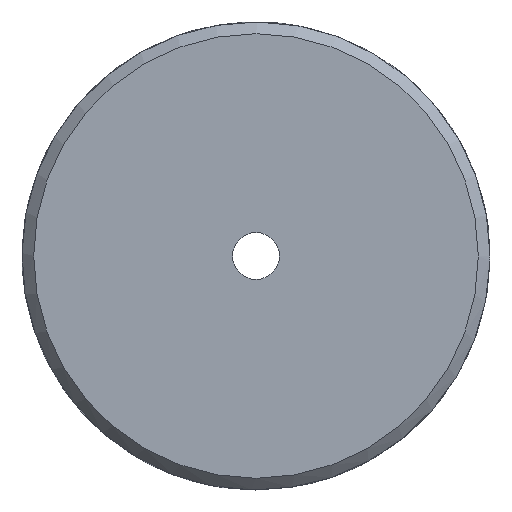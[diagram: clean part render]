
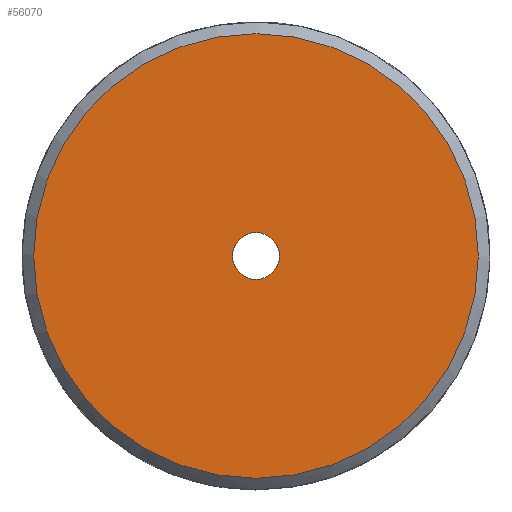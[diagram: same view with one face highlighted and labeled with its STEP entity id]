
A CAD part, left-side view. The second image highlights one B-rep face of the part: STEP entity #56070.
In plain terms, the highlighted planar face has unit normal (-1, 0, 0).
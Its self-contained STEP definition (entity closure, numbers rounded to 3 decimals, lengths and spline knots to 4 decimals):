
#16147=PLANE('',#55372);
#20806=ORIENTED_EDGE('',*,*,#22434,.F.);
#20807=ORIENTED_EDGE('',*,*,#24044,.F.);
#20809=CIRCLE('',#54337,9.5);
#21345=CIRCLE('',#55371,1.);
#21347=VERTEX_POINT('',#27198);
#22432=VERTEX_POINT('',#54330);
#22434=EDGE_CURVE('',#21347,#21347,#20809,.T.);
#24044=EDGE_CURVE('',#22432,#22432,#21345,.T.);
#24578=EDGE_LOOP('',(#20806));
#24579=EDGE_LOOP('',(#20807));
#25113=FACE_BOUND('',#24578,.T.);
#25114=FACE_BOUND('',#24579,.T.);
#25119=DIRECTION('',(1.,0.,0.));
#25120=DIRECTION('',(0.,0.,9.5));
#27187=DIRECTION('',(-1.,0.,0.));
#27188=DIRECTION('',(0.,0.,1.));
#27189=DIRECTION('',(-1.,0.,0.));
#27190=DIRECTION('',(0.,1.,0.));
#27198=CARTESIAN_POINT('',(3.1314,192.6016,9.5));
#27199=CARTESIAN_POINT('',(3.1314,192.6016,0.));
#54330=CARTESIAN_POINT('',(3.1314,192.6016,1.));
#54331=CARTESIAN_POINT('',(3.1314,192.6016,0.));
#54332=CARTESIAN_POINT('',(3.1314,192.6016,9.5));
#54337=AXIS2_PLACEMENT_3D('',#27199,#25119,#25120);
#55371=AXIS2_PLACEMENT_3D('',#54331,#27187,#27188);
#55372=AXIS2_PLACEMENT_3D('',#54332,#27189,#27190);
#56070=ADVANCED_FACE('',(#25113,#25114),#16147,.T.);
